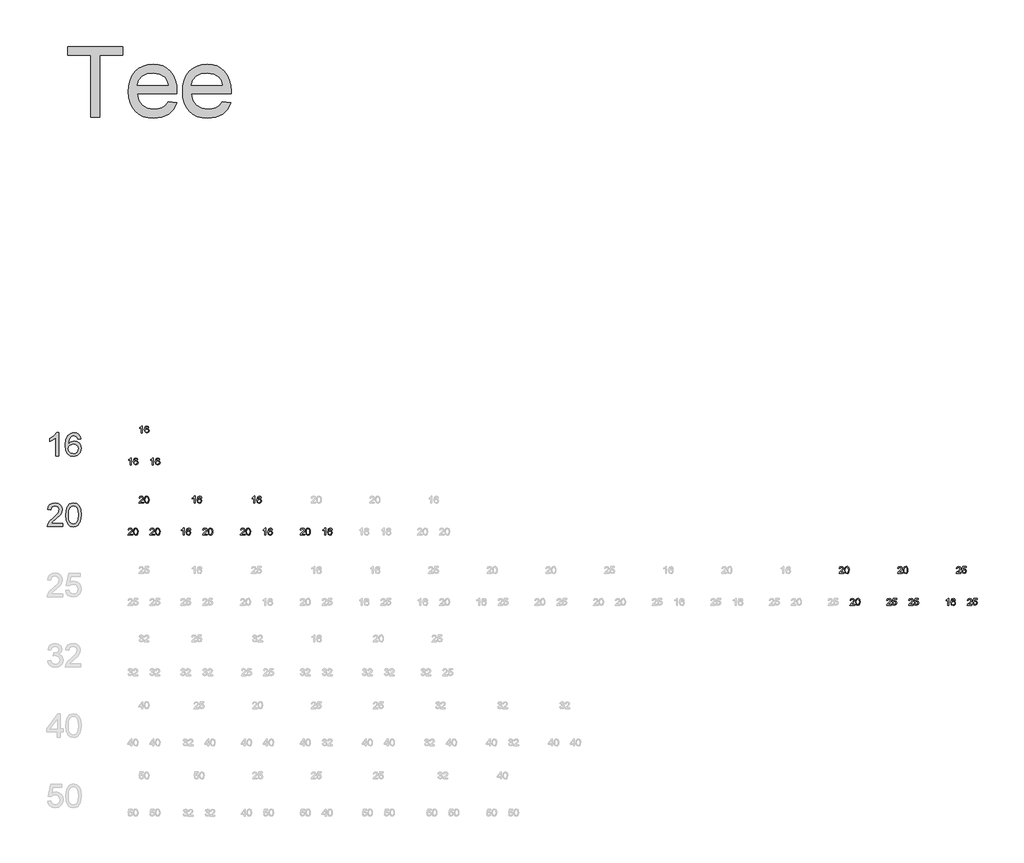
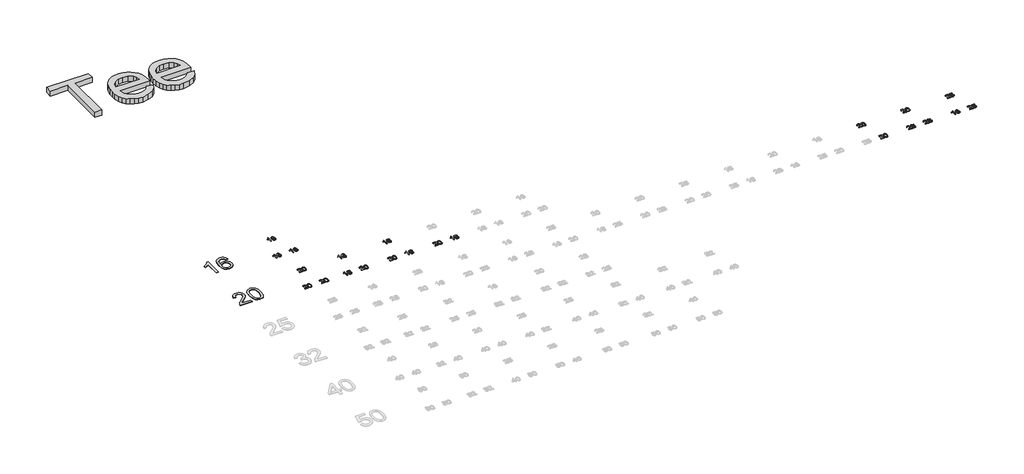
# One storey, part 20 of 26: 25 proxies.
"""IFC4 building model written with IfcOpenShell, lengths in millimetres."""

from ifc_helpers import new_model, si_unit, origin, origin_with_axes, place, context, project, spatial, polyline, outline, extrude, element, save

model = new_model("IFC4")

# Units and contexts
model_context = context("Model", 3, world=origin())
ifc_project = project(units=[si_unit("LENGTHUNIT", "METRE", prefix="MILLI")], contexts=[model_context])

# Site, building, storey
site = spatial("IfcSite", under=ifc_project)
building = spatial("IfcBuilding", under=site)
storey = spatial("IfcBuildingStorey", under=building, Name="Superpipe UFH", Elevation=0.0)

# Proxies
placement = place(None, origin())
element("IfcBuildingElementProxy", 1, Name="100mm Arial", ObjectType="100mm Arial", at=placement, inside=storey, context=model_context, shape_type="SweptSolid", body=[
    extrude(outline(polyline([(25218.072208, 24325.7324643), (25205.5151692, 24325.7324643), (25205.5151692, 24404.0177529), (25193.6203181, 24395.5442043), (25180.4010917, 24389.2043712), (25180.4010917, 24401.0746969), (25198.8074542, 24412.8223953), (25209.9788041, 24426.1887745), (25218.072208, 24426.1887745), (25218.072208, 24325.7324643)])), origin_with_axes(), (0.0, 0.0, 1.0), 2.0),
    extrude(outline(polyline([(25312.2499988, 24399.5050671), (25299.69296, 24397.9354372), (25294.9350195, 24408.4078114), (25282.3534553, 24413.6317357), (25271.0226898, 24410.5905779), (25262.4510394, 24399.1739733), (25258.882584, 24376.7944853), (25269.9558321, 24386.8131383), (25283.6778305, 24390.087288), (25295.2783761, 24387.8493392), (25305.0149862, 24381.1354928), (25311.618468, 24370.8777165), (25313.8196286, 24358.007978), (25309.6748248, 24340.6807361), (25298.270483, 24328.4180029), (25281.813895, 24324.1628345), (25267.5676648, 24326.9832631), (25256.2215709, 24335.444549), (25248.7995517, 24350.380558), (25246.3255452, 24372.625156), (25249.0723975, 24397.6350003), (25257.3129542, 24414.7353817), (25268.5640118, 24423.3254263), (25283.1382702, 24426.1887745), (25294.156336, 24424.4168095), (25302.9793725, 24419.1009147), (25309.15979, 24410.6580229), (25312.2499988, 24399.5050671)]), holes=[polyline([(25258.882584, 24358.2041818), (25261.7888518, 24347.3271374), (25269.5143737, 24339.4299373), (25280.8328764, 24336.7198733), (25289.1194183, 24338.1239562), (25295.6339953, 24342.336205), (25299.8554412, 24348.958081), (25301.2625899, 24357.5910451), (25299.8738353, 24365.8775871), (25295.7075717, 24372.1959603), (25289.0826301, 24376.196677), (25280.3178416, 24377.5302492), (25265.1243152, 24372.1959603), (25260.4430168, 24366.0308712), (25258.882584, 24358.2041818)])]), origin_with_axes(), (0.0, 0.0, 1.0), 2.0),
])
element("IfcBuildingElementProxy", 2, Name="100mm Arial", ObjectType="100mm Arial", at=placement, inside=storey, context=model_context, shape_type="SweptSolid", body=[
    extrude(outline(polyline([(25235.3381363, 24038.2895031), (25235.3381363, 24025.7324643), (25169.4136828, 24025.7324643), (25170.7625834, 24034.3899539), (25178.3900035, 24047.7195449), (25194.1108274, 24062.2754092), (25215.7913396, 24083.195632), (25221.2114677, 24097.4204025), (25216.097908, 24108.9351089), (25202.7437915, 24113.6317357), (25188.8255894, 24109.0454735), (25183.5403514, 24096.3658074), (25170.9833126, 24097.9354372), (25174.0275361, 24110.0816745), (25180.6095582, 24118.9537619), (25190.3860222, 24124.3800213), (25203.0135717, 24126.1887745), (25215.7330917, 24124.1776862), (25225.4911616, 24118.1444215), (25231.6991702, 24109.1313126), (25233.7685065, 24098.1806919), (25231.536689, 24086.273578), (25224.1177355, 24073.9617939), (25206.1283059, 24056.7571793), (25191.6828062, 24044.6783871), (25186.0174235, 24038.2895031), (25235.3381363, 24038.2895031)])), origin_with_axes(), (0.0, 0.0, 1.0), 2.0),
    extrude(outline(polyline([(25247.8951751, 24075.151279), (25251.5862578, 24104.0545411), (25262.5491412, 24120.7195955), (25280.8574019, 24126.1887745), (25295.5236307, 24122.9514129), (25305.6526483, 24113.619473), (25311.5387602, 24098.7570404), (25313.8196286, 24075.151279), (25310.1653341, 24046.3706443), (25299.2392389, 24029.6688017), (25291.0078792, 24025.5393263), (25280.8574019, 24024.1628345), (25267.8098538, 24026.5540675), (25257.9015654, 24033.7277664), (25250.3967727, 24050.7177832), (25247.8951751, 24075.151279)]), holes=[polyline([(25260.4522139, 24075.1758045), (25261.9237418, 24055.423607), (25266.3383258, 24043.991674), (25272.9111508, 24038.5378234), (25280.8574019, 24036.7198733), (25288.8036529, 24038.5439548), (25295.3764779, 24044.0161995), (25299.7910619, 24055.4542639), (25301.2625899, 24075.1758045), (25299.8401128, 24094.4834779), (25295.5726817, 24106.0043157), (25289.0121194, 24111.7248807), (25280.7102491, 24113.6317357), (25272.8498371, 24111.9517413), (25266.5345295, 24106.9117579), (25261.9727928, 24094.6735502), (25260.4522139, 24075.1758045)])]), origin_with_axes(), (0.0, 0.0, 1.0), 2.0),
])
element("IfcBuildingElementProxy", 3, Name="30mm Arial", ObjectType="30mm Arial", at=placement, inside=storey, context=model_context, shape_type="SweptSolid", body=[
    extrude(outline(polyline([(25528.0687968, 24288.5299634), (25524.3016852, 24288.5299634), (25524.3016852, 24312.01555), (25520.7332298, 24309.4734854), (25516.7674619, 24307.5715355), (25516.7674619, 24311.1326332), (25522.2893707, 24314.6569427), (25525.6407756, 24318.6668565), (25528.0687968, 24318.6668565), (25528.0687968, 24288.5299634)])), origin_with_axes(), (0.0, 0.0, 1.0), 2.0),
    extrude(outline(polyline([(25556.322134, 24310.6617442), (25552.5550224, 24310.1908553), (25551.1276403, 24313.3325675), (25547.353171, 24314.8997448), (25543.9539414, 24313.9873975), (25541.3824462, 24310.5624161), (25540.3119096, 24303.8485697), (25543.633884, 24306.8541656), (25547.7504835, 24307.8364105), (25554.1516303, 24305.150872), (25556.793023, 24298.2126175), (25555.5495818, 24293.0144449), (25552.1282793, 24289.335625), (25547.1913029, 24288.0590745), (25539.5136057, 24291.4435888), (25536.544798, 24302.5977709), (25539.8410206, 24315.2308386), (25547.5886155, 24318.6668565), (25553.5409461, 24316.5404985), (25556.322134, 24310.6617442)]), holes=[polyline([(25540.3119096, 24298.2714786), (25541.1837899, 24295.0083653), (25543.5014465, 24292.6392053), (25546.8969973, 24291.8261861), (25551.337333, 24293.5110856), (25553.0259114, 24298.0875376), (25551.3594059, 24302.4690122), (25546.7424869, 24304.0692989), (25542.184429, 24302.4690122), (25540.3119096, 24298.2714786)])]), origin_with_axes(), (0.0, 0.0, 1.0), 2.0),
])
element("IfcBuildingElementProxy", 4, Name="30mm Arial", ObjectType="30mm Arial", at=placement, inside=storey, context=model_context, shape_type="SweptSolid", body=[
    extrude(outline(polyline([(25621.8187968, 24288.5299634), (25618.0516852, 24288.5299634), (25618.0516852, 24312.01555), (25614.4832298, 24309.4734854), (25610.5174619, 24307.5715355), (25610.5174619, 24311.1326332), (25616.0393707, 24314.6569427), (25619.3907756, 24318.6668565), (25621.8187968, 24318.6668565), (25621.8187968, 24288.5299634)])), origin_with_axes(), (0.0, 0.0, 1.0), 2.0),
    extrude(outline(polyline([(25650.072134, 24310.6617442), (25646.3050224, 24310.1908553), (25644.8776403, 24313.3325675), (25641.103171, 24314.8997448), (25637.7039414, 24313.9873975), (25635.1324462, 24310.5624161), (25634.0619096, 24303.8485697), (25637.383884, 24306.8541656), (25641.5004835, 24307.8364105), (25647.9016303, 24305.150872), (25650.543023, 24298.2126175), (25649.2995818, 24293.0144449), (25645.8782793, 24289.335625), (25640.9413029, 24288.0590745), (25633.2636057, 24291.4435888), (25630.294798, 24302.5977709), (25633.5910206, 24315.2308386), (25641.3386155, 24318.6668565), (25647.2909461, 24316.5404985), (25650.072134, 24310.6617442)]), holes=[polyline([(25634.0619096, 24298.2714786), (25634.9337899, 24295.0083653), (25637.2514465, 24292.6392053), (25640.6469973, 24291.8261861), (25645.087333, 24293.5110856), (25646.7759114, 24298.0875376), (25645.1094059, 24302.4690122), (25640.4924869, 24304.0692989), (25635.934429, 24302.4690122), (25634.0619096, 24298.2714786)])]), origin_with_axes(), (0.0, 0.0, 1.0), 2.0),
])
element("IfcBuildingElementProxy", 5, Name="30mm Arial", ObjectType="30mm Arial", at=placement, inside=storey, context=model_context, shape_type="SweptSolid", body=[
    extrude(outline(polyline([(25574.9969816, 24424.848604), (25571.22987, 24424.848604), (25571.22987, 24448.3341905), (25567.6614146, 24445.792126), (25563.6956467, 24443.890176), (25563.6956467, 24447.4512738), (25569.2175555, 24450.9755833), (25572.5689604, 24454.985497), (25574.9969816, 24454.985497), (25574.9969816, 24424.848604)])), origin_with_axes(), (0.0, 0.0, 1.0), 2.0),
    extrude(outline(polyline([(25603.2503188, 24446.9803848), (25599.4832072, 24446.5094959), (25598.0558251, 24449.6512081), (25594.2813558, 24451.2183854), (25590.8821262, 24450.306038), (25588.310631, 24446.8810567), (25587.2400944, 24440.1672103), (25590.5620688, 24443.1728062), (25594.6786683, 24444.1550511), (25601.0798151, 24441.4695125), (25603.7212078, 24434.5312581), (25602.4777666, 24429.3330855), (25599.0564641, 24425.6542655), (25594.1194877, 24424.377715), (25586.4417905, 24427.7622294), (25583.4729828, 24438.9164115), (25586.7692055, 24451.5494792), (25594.5168003, 24454.985497), (25600.469131, 24452.8591391), (25603.2503188, 24446.9803848)]), holes=[polyline([(25587.2400944, 24434.5901192), (25588.1119747, 24431.3270059), (25590.4296313, 24428.9578459), (25593.8251821, 24428.1448267), (25598.2655178, 24429.8297262), (25599.9540962, 24434.4061782), (25598.2875907, 24438.7876528), (25593.6706717, 24440.3879395), (25589.1126138, 24438.7876528), (25587.2400944, 24434.5901192)])]), origin_with_axes(), (0.0, 0.0, 1.0), 2.0),
])
element("IfcBuildingElementProxy", 6, Name="30mm Arial", ObjectType="30mm Arial", at=placement, inside=storey, context=model_context, shape_type="SweptSolid", body=[
    extrude(outline(polyline([(25533.2485753, 23992.297075), (25533.2485753, 23988.5299634), (25513.4712392, 23988.5299634), (25513.8759094, 23991.1272103), (25516.1641354, 23995.1260876), (25520.8803826, 23999.4928469), (25527.3845363, 24005.7689137), (25529.0105747, 24010.0363449), (25527.4765068, 24013.4907568), (25523.4702719, 24014.8997448), (25519.2948112, 24013.5238662), (25517.7092398, 24009.7199663), (25513.9421282, 24010.1908553), (25516.8300018, 24016.4963527), (25523.5512059, 24018.6668565), (25530.2944829, 24016.2535506), (25532.7776863, 24010.2644317), (25532.1081411, 24006.6922975), (25529.882455, 24002.9987623), (25524.4856262, 23997.8373779), (25520.1519763, 23994.2137402), (25518.4523614, 23992.297075), (25533.2485753, 23992.297075)])), origin_with_axes(), (0.0, 0.0, 1.0), 2.0),
    extrude(outline(polyline([(25537.0156869, 24003.3556078), (25538.1230117, 24012.0265864), (25541.4118768, 24017.0261028), (25546.904355, 24018.6668565), (25551.3042236, 24017.695648), (25554.3429289, 24014.896066), (25556.1087625, 24010.4373362), (25556.793023, 24003.3556078), (25555.6967346, 23994.7214174), (25552.4189061, 23989.7108646), (25546.904355, 23988.0590745), (25540.017604, 23990.928554), (25537.0156869, 24003.3556078)]), holes=[polyline([(25540.7827986, 24003.3629655), (25542.5486321, 23994.0077263), (25546.904355, 23991.8261861), (25551.2600778, 23994.015084), (25553.0259114, 24003.3629655), (25551.3189389, 24012.6115188), (25546.8602091, 24014.8997448), (25542.6074932, 24012.8837515), (25540.7827986, 24003.3629655)])]), origin_with_axes(), (0.0, 0.0, 1.0), 2.0),
])
element("IfcBuildingElementProxy", 7, Name="30mm Arial", ObjectType="30mm Arial", at=placement, inside=storey, context=model_context, shape_type="SweptSolid", body=[
    extrude(outline(polyline([(25626.9985753, 23992.297075), (25626.9985753, 23988.5299634), (25607.2212392, 23988.5299634), (25607.6259094, 23991.1272103), (25609.9141354, 23995.1260876), (25614.6303826, 23999.4928469), (25621.1345363, 24005.7689137), (25622.7605747, 24010.0363449), (25621.2265068, 24013.4907568), (25617.2202719, 24014.8997448), (25613.0448112, 24013.5238662), (25611.4592398, 24009.7199663), (25607.6921282, 24010.1908553), (25610.5800018, 24016.4963527), (25617.3012059, 24018.6668565), (25624.0444829, 24016.2535506), (25626.5276863, 24010.2644317), (25625.8581411, 24006.6922975), (25623.632455, 24002.9987623), (25618.2356262, 23997.8373779), (25613.9019763, 23994.2137402), (25612.2023614, 23992.297075), (25626.9985753, 23992.297075)])), origin_with_axes(), (0.0, 0.0, 1.0), 2.0),
    extrude(outline(polyline([(25630.7656869, 24003.3556078), (25631.8730117, 24012.0265864), (25635.1618768, 24017.0261028), (25640.654355, 24018.6668565), (25645.0542236, 24017.695648), (25648.0929289, 24014.896066), (25649.8587625, 24010.4373362), (25650.543023, 24003.3556078), (25649.4467346, 23994.7214174), (25646.1689061, 23989.7108646), (25640.654355, 23988.0590745), (25633.767604, 23990.928554), (25630.7656869, 24003.3556078)]), holes=[polyline([(25634.5327986, 24003.3629655), (25636.2986321, 23994.0077263), (25640.654355, 23991.8261861), (25645.0100778, 23994.015084), (25646.7759114, 24003.3629655), (25645.0689389, 24012.6115188), (25640.6102091, 24014.8997448), (25636.3574932, 24012.8837515), (25634.5327986, 24003.3629655)])]), origin_with_axes(), (0.0, 0.0, 1.0), 2.0),
])
element("IfcBuildingElementProxy", 8, Name="30mm Arial", ObjectType="30mm Arial", at=placement, inside=storey, context=model_context, shape_type="SweptSolid", body=[
    extrude(outline(polyline([(25580.1767601, 24128.6157156), (25580.1767601, 24124.848604), (25560.399424, 24124.848604), (25560.8040942, 24127.4458509), (25563.0923202, 24131.4447281), (25567.8085674, 24135.8114874), (25574.3127211, 24142.0875543), (25575.9387595, 24146.3549854), (25574.4046916, 24149.8093973), (25570.3984567, 24151.2183854), (25566.222996, 24149.8425067), (25564.6374246, 24146.0386069), (25560.870313, 24146.5094959), (25563.7581867, 24152.8149932), (25570.4793907, 24154.985497), (25577.2226677, 24152.5721911), (25579.7058711, 24146.5830723), (25579.0363259, 24143.0109381), (25576.8106398, 24139.3174028), (25571.413811, 24134.1560185), (25567.0801611, 24130.5323808), (25565.3805463, 24128.6157156), (25580.1767601, 24128.6157156)])), origin_with_axes(), (0.0, 0.0, 1.0), 2.0),
    extrude(outline(polyline([(25583.9438717, 24139.6742484), (25585.0511965, 24148.345227), (25588.3400616, 24153.3447433), (25593.8325398, 24154.985497), (25598.2324084, 24154.0142886), (25601.2711137, 24151.2147066), (25603.0369473, 24146.7559768), (25603.7212078, 24139.6742484), (25602.6249194, 24131.040058), (25599.3470909, 24126.0295052), (25593.8325398, 24124.377715), (25586.9457888, 24127.2471946), (25583.9438717, 24139.6742484)]), holes=[polyline([(25587.7109834, 24139.681606), (25589.4768169, 24130.3263669), (25593.8325398, 24128.1448267), (25598.1882626, 24130.3337245), (25599.9540962, 24139.681606), (25598.2471237, 24148.9301594), (25593.7883939, 24151.2183854), (25589.5356781, 24149.2023921), (25587.7109834, 24139.681606)])]), origin_with_axes(), (0.0, 0.0, 1.0), 2.0),
])
element("IfcBuildingElementProxy", 9, Name="30mm Arial", ObjectType="30mm Arial", at=placement, inside=storey, context=model_context, shape_type="SweptSolid", body=[
    extrude(outline(polyline([(25753.0687968, 23988.5299634), (25749.3016852, 23988.5299634), (25749.3016852, 24012.01555), (25745.7332298, 24009.4734854), (25741.7674619, 24007.5715355), (25741.7674619, 24011.1326332), (25747.2893707, 24014.6569427), (25750.6407756, 24018.6668565), (25753.0687968, 24018.6668565), (25753.0687968, 23988.5299634)])), origin_with_axes(), (0.0, 0.0, 1.0), 2.0),
    extrude(outline(polyline([(25781.322134, 24010.6617442), (25777.5550224, 24010.1908553), (25776.1276403, 24013.3325675), (25772.353171, 24014.8997448), (25768.9539414, 24013.9873975), (25766.3824462, 24010.5624161), (25765.3119096, 24003.8485697), (25768.633884, 24006.8541656), (25772.7504835, 24007.8364105), (25779.1516303, 24005.150872), (25781.793023, 23998.2126175), (25780.5495818, 23993.0144449), (25777.1282793, 23989.335625), (25772.1913029, 23988.0590745), (25764.5136057, 23991.4435888), (25761.544798, 24002.5977709), (25764.8410206, 24015.2308386), (25772.5886155, 24018.6668565), (25778.5409461, 24016.5404985), (25781.322134, 24010.6617442)]), holes=[polyline([(25765.3119096, 23998.2714786), (25766.1837899, 23995.0083653), (25768.5014465, 23992.6392053), (25771.8969973, 23991.8261861), (25776.337333, 23993.5110856), (25778.0259114, 23998.0875376), (25776.3594059, 24002.4690122), (25771.7424869, 24004.0692989), (25767.184429, 24002.4690122), (25765.3119096, 23998.2714786)])]), origin_with_axes(), (0.0, 0.0, 1.0), 2.0),
])
element("IfcBuildingElementProxy", 10, Name="30mm Arial", ObjectType="30mm Arial", at=placement, inside=storey, context=model_context, shape_type="SweptSolid", body=[
    extrude(outline(polyline([(25851.9985753, 23992.297075), (25851.9985753, 23988.5299634), (25832.2212392, 23988.5299634), (25832.6259094, 23991.1272103), (25834.9141354, 23995.1260876), (25839.6303826, 23999.4928469), (25846.1345363, 24005.7689137), (25847.7605747, 24010.0363449), (25846.2265068, 24013.4907568), (25842.2202719, 24014.8997448), (25838.0448112, 24013.5238662), (25836.4592398, 24009.7199663), (25832.6921282, 24010.1908553), (25835.5800018, 24016.4963527), (25842.3012059, 24018.6668565), (25849.0444829, 24016.2535506), (25851.5276863, 24010.2644317), (25850.8581411, 24006.6922975), (25848.632455, 24002.9987623), (25843.2356262, 23997.8373779), (25838.9019763, 23994.2137402), (25837.2023614, 23992.297075), (25851.9985753, 23992.297075)])), origin_with_axes(), (0.0, 0.0, 1.0), 2.0),
    extrude(outline(polyline([(25855.7656869, 24003.3556078), (25856.8730117, 24012.0265864), (25860.1618768, 24017.0261028), (25865.654355, 24018.6668565), (25870.0542236, 24017.695648), (25873.0929289, 24014.896066), (25874.8587625, 24010.4373362), (25875.543023, 24003.3556078), (25874.4467346, 23994.7214174), (25871.1689061, 23989.7108646), (25865.654355, 23988.0590745), (25858.767604, 23990.928554), (25855.7656869, 24003.3556078)]), holes=[polyline([(25859.5327986, 24003.3629655), (25861.2986321, 23994.0077263), (25865.654355, 23991.8261861), (25870.0100778, 23994.015084), (25871.7759114, 24003.3629655), (25870.0689389, 24012.6115188), (25865.6102091, 24014.8997448), (25861.3574932, 24012.8837515), (25859.5327986, 24003.3629655)])]), origin_with_axes(), (0.0, 0.0, 1.0), 2.0),
])
element("IfcBuildingElementProxy", 11, Name="30mm Arial", ObjectType="30mm Arial", at=placement, inside=storey, context=model_context, shape_type="SweptSolid", body=[
    extrude(outline(polyline([(25799.9969816, 24124.848604), (25796.22987, 24124.848604), (25796.22987, 24148.3341905), (25792.6614146, 24145.792126), (25788.6956467, 24143.890176), (25788.6956467, 24147.4512738), (25794.2175555, 24150.9755833), (25797.5689604, 24154.985497), (25799.9969816, 24154.985497), (25799.9969816, 24124.848604)])), origin_with_axes(), (0.0, 0.0, 1.0), 2.0),
    extrude(outline(polyline([(25828.2503188, 24146.9803848), (25824.4832072, 24146.5094959), (25823.0558251, 24149.6512081), (25819.2813558, 24151.2183854), (25815.8821262, 24150.306038), (25813.310631, 24146.8810567), (25812.2400944, 24140.1672103), (25815.5620688, 24143.1728062), (25819.6786683, 24144.1550511), (25826.0798151, 24141.4695125), (25828.7212078, 24134.5312581), (25827.4777666, 24129.3330855), (25824.0564641, 24125.6542655), (25819.1194877, 24124.377715), (25811.4417905, 24127.7622294), (25808.4729828, 24138.9164115), (25811.7692055, 24151.5494792), (25819.5168003, 24154.985497), (25825.469131, 24152.8591391), (25828.2503188, 24146.9803848)]), holes=[polyline([(25812.2400944, 24134.5901192), (25813.1119747, 24131.3270059), (25815.4296313, 24128.9578459), (25818.8251821, 24128.1448267), (25823.2655178, 24129.8297262), (25824.9540962, 24134.4061782), (25823.2875907, 24138.7876528), (25818.6706717, 24140.3879395), (25814.1126138, 24138.7876528), (25812.2400944, 24134.5901192)])]), origin_with_axes(), (0.0, 0.0, 1.0), 2.0),
])
element("IfcBuildingElementProxy", 12, Name="30mm Arial", ObjectType="30mm Arial", at=placement, inside=storey, context=model_context, shape_type="SweptSolid", body=[
    extrude(outline(polyline([(26013.2485753, 23992.297075), (26013.2485753, 23988.5299634), (25993.4712392, 23988.5299634), (25993.8759094, 23991.1272103), (25996.1641354, 23995.1260876), (26000.8803826, 23999.4928469), (26007.3845363, 24005.7689137), (26009.0105747, 24010.0363449), (26007.4765068, 24013.4907568), (26003.4702719, 24014.8997448), (25999.2948112, 24013.5238662), (25997.7092398, 24009.7199663), (25993.9421282, 24010.1908553), (25996.8300018, 24016.4963527), (26003.5512059, 24018.6668565), (26010.2944829, 24016.2535506), (26012.7776863, 24010.2644317), (26012.1081411, 24006.6922975), (26009.882455, 24002.9987623), (26004.4856262, 23997.8373779), (26000.1519763, 23994.2137402), (25998.4523614, 23992.297075), (26013.2485753, 23992.297075)])), origin_with_axes(), (0.0, 0.0, 1.0), 2.0),
    extrude(outline(polyline([(26017.0156869, 24003.3556078), (26018.1230117, 24012.0265864), (26021.4118768, 24017.0261028), (26026.904355, 24018.6668565), (26031.3042236, 24017.695648), (26034.3429289, 24014.896066), (26036.1087625, 24010.4373362), (26036.793023, 24003.3556078), (26035.6967346, 23994.7214174), (26032.4189061, 23989.7108646), (26026.904355, 23988.0590745), (26020.017604, 23990.928554), (26017.0156869, 24003.3556078)]), holes=[polyline([(26020.7827986, 24003.3629655), (26022.5486321, 23994.0077263), (26026.904355, 23991.8261861), (26031.2600778, 23994.015084), (26033.0259114, 24003.3629655), (26031.3189389, 24012.6115188), (26026.8602091, 24014.8997448), (26022.6074932, 24012.8837515), (26020.7827986, 24003.3629655)])]), origin_with_axes(), (0.0, 0.0, 1.0), 2.0),
])
element("IfcBuildingElementProxy", 13, Name="30mm Arial", ObjectType="30mm Arial", at=placement, inside=storey, context=model_context, shape_type="SweptSolid", body=[
    extrude(outline(polyline([(26101.8187968, 23988.5299634), (26098.0516852, 23988.5299634), (26098.0516852, 24012.01555), (26094.4832298, 24009.4734854), (26090.5174619, 24007.5715355), (26090.5174619, 24011.1326332), (26096.0393707, 24014.6569427), (26099.3907756, 24018.6668565), (26101.8187968, 24018.6668565), (26101.8187968, 23988.5299634)])), origin_with_axes(), (0.0, 0.0, 1.0), 2.0),
    extrude(outline(polyline([(26130.072134, 24010.6617442), (26126.3050224, 24010.1908553), (26124.8776403, 24013.3325675), (26121.103171, 24014.8997448), (26117.7039414, 24013.9873975), (26115.1324462, 24010.5624161), (26114.0619096, 24003.8485697), (26117.383884, 24006.8541656), (26121.5004835, 24007.8364105), (26127.9016303, 24005.150872), (26130.543023, 23998.2126175), (26129.2995818, 23993.0144449), (26125.8782793, 23989.335625), (26120.9413029, 23988.0590745), (26113.2636057, 23991.4435888), (26110.294798, 24002.5977709), (26113.5910206, 24015.2308386), (26121.3386155, 24018.6668565), (26127.2909461, 24016.5404985), (26130.072134, 24010.6617442)]), holes=[polyline([(26114.0619096, 23998.2714786), (26114.9337899, 23995.0083653), (26117.2514465, 23992.6392053), (26120.6469973, 23991.8261861), (26125.087333, 23993.5110856), (26126.7759114, 23998.0875376), (26125.1094059, 24002.4690122), (26120.4924869, 24004.0692989), (26115.934429, 24002.4690122), (26114.0619096, 23998.2714786)])]), origin_with_axes(), (0.0, 0.0, 1.0), 2.0),
])
element("IfcBuildingElementProxy", 14, Name="30mm Arial", ObjectType="30mm Arial", at=placement, inside=storey, context=model_context, shape_type="SweptSolid", body=[
    extrude(outline(polyline([(26054.9969816, 24124.848604), (26051.22987, 24124.848604), (26051.22987, 24148.3341905), (26047.6614146, 24145.792126), (26043.6956467, 24143.890176), (26043.6956467, 24147.4512738), (26049.2175555, 24150.9755833), (26052.5689604, 24154.985497), (26054.9969816, 24154.985497), (26054.9969816, 24124.848604)])), origin_with_axes(), (0.0, 0.0, 1.0), 2.0),
    extrude(outline(polyline([(26083.2503188, 24146.9803848), (26079.4832072, 24146.5094959), (26078.0558251, 24149.6512081), (26074.2813558, 24151.2183854), (26070.8821262, 24150.306038), (26068.310631, 24146.8810567), (26067.2400944, 24140.1672103), (26070.5620688, 24143.1728062), (26074.6786683, 24144.1550511), (26081.0798151, 24141.4695125), (26083.7212078, 24134.5312581), (26082.4777666, 24129.3330855), (26079.0564641, 24125.6542655), (26074.1194877, 24124.377715), (26066.4417905, 24127.7622294), (26063.4729828, 24138.9164115), (26066.7692055, 24151.5494792), (26074.5168003, 24154.985497), (26080.469131, 24152.8591391), (26083.2503188, 24146.9803848)]), holes=[polyline([(26067.2400944, 24134.5901192), (26068.1119747, 24131.3270059), (26070.4296313, 24128.9578459), (26073.8251821, 24128.1448267), (26078.2655178, 24129.8297262), (26079.9540962, 24134.4061782), (26078.2875907, 24138.7876528), (26073.6706717, 24140.3879395), (26069.1126138, 24138.7876528), (26067.2400944, 24134.5901192)])]), origin_with_axes(), (0.0, 0.0, 1.0), 2.0),
])
element("IfcBuildingElementProxy", 15, Name="30mm Arial", ObjectType="30mm Arial", at=placement, inside=storey, context=model_context, shape_type="SweptSolid", body=[
    extrude(outline(polyline([(26268.2485753, 23992.297075), (26268.2485753, 23988.5299634), (26248.4712392, 23988.5299634), (26248.8759094, 23991.1272103), (26251.1641354, 23995.1260876), (26255.8803826, 23999.4928469), (26262.3845363, 24005.7689137), (26264.0105747, 24010.0363449), (26262.4765068, 24013.4907568), (26258.4702719, 24014.8997448), (26254.2948112, 24013.5238662), (26252.7092398, 24009.7199663), (26248.9421282, 24010.1908553), (26251.8300018, 24016.4963527), (26258.5512059, 24018.6668565), (26265.2944829, 24016.2535506), (26267.7776863, 24010.2644317), (26267.1081411, 24006.6922975), (26264.882455, 24002.9987623), (26259.4856262, 23997.8373779), (26255.1519763, 23994.2137402), (26253.4523614, 23992.297075), (26268.2485753, 23992.297075)])), origin_with_axes(), (0.0, 0.0, 1.0), 2.0),
    extrude(outline(polyline([(26272.0156869, 24003.3556078), (26273.1230117, 24012.0265864), (26276.4118768, 24017.0261028), (26281.904355, 24018.6668565), (26286.3042236, 24017.695648), (26289.3429289, 24014.896066), (26291.1087625, 24010.4373362), (26291.793023, 24003.3556078), (26290.6967346, 23994.7214174), (26287.4189061, 23989.7108646), (26281.904355, 23988.0590745), (26275.017604, 23990.928554), (26272.0156869, 24003.3556078)]), holes=[polyline([(26275.7827986, 24003.3629655), (26277.5486321, 23994.0077263), (26281.904355, 23991.8261861), (26286.2600778, 23994.015084), (26288.0259114, 24003.3629655), (26286.3189389, 24012.6115188), (26281.8602091, 24014.8997448), (26277.6074932, 24012.8837515), (26275.7827986, 24003.3629655)])]), origin_with_axes(), (0.0, 0.0, 1.0), 2.0),
])
element("IfcBuildingElementProxy", 16, Name="30mm Arial", ObjectType="30mm Arial", at=placement, inside=storey, context=model_context, shape_type="SweptSolid", body=[
    extrude(outline(polyline([(26356.8187968, 23988.5299634), (26353.0516852, 23988.5299634), (26353.0516852, 24012.01555), (26349.4832298, 24009.4734854), (26345.5174619, 24007.5715355), (26345.5174619, 24011.1326332), (26351.0393707, 24014.6569427), (26354.3907756, 24018.6668565), (26356.8187968, 24018.6668565), (26356.8187968, 23988.5299634)])), origin_with_axes(), (0.0, 0.0, 1.0), 2.0),
    extrude(outline(polyline([(26385.072134, 24010.6617442), (26381.3050224, 24010.1908553), (26379.8776403, 24013.3325675), (26376.103171, 24014.8997448), (26372.7039414, 24013.9873975), (26370.1324462, 24010.5624161), (26369.0619096, 24003.8485697), (26372.383884, 24006.8541656), (26376.5004835, 24007.8364105), (26382.9016303, 24005.150872), (26385.543023, 23998.2126175), (26384.2995818, 23993.0144449), (26380.8782793, 23989.335625), (26375.9413029, 23988.0590745), (26368.2636057, 23991.4435888), (26365.294798, 24002.5977709), (26368.5910206, 24015.2308386), (26376.3386155, 24018.6668565), (26382.2909461, 24016.5404985), (26385.072134, 24010.6617442)]), holes=[polyline([(26369.0619096, 23998.2714786), (26369.9337899, 23995.0083653), (26372.2514465, 23992.6392053), (26375.6469973, 23991.8261861), (26380.087333, 23993.5110856), (26381.7759114, 23998.0875376), (26380.1094059, 24002.4690122), (26375.4924869, 24004.0692989), (26370.934429, 24002.4690122), (26369.0619096, 23998.2714786)])]), origin_with_axes(), (0.0, 0.0, 1.0), 2.0),
])
element("IfcBuildingElementProxy", 17, Name="30mm Arial", ObjectType="30mm Arial", at=placement, inside=storey, context=model_context, shape_type="SweptSolid", body=[
    extrude(outline(polyline([(28614.5194691, 23692.297075), (28614.5194691, 23688.5299634), (28594.742133, 23688.5299634), (28595.1468032, 23691.1272103), (28597.4350292, 23695.1260876), (28602.1512764, 23699.4928469), (28608.6554301, 23705.7689137), (28610.2814685, 23710.0363449), (28608.7474006, 23713.4907568), (28604.7411657, 23714.8997448), (28600.565705, 23713.5238662), (28598.9801336, 23709.7199663), (28595.213022, 23710.1908553), (28598.1008956, 23716.4963527), (28604.8220997, 23718.6668565), (28611.5653767, 23716.2535506), (28614.0485801, 23710.2644317), (28613.3790349, 23706.6922975), (28611.1533488, 23702.9987623), (28605.75652, 23697.8373779), (28601.4228701, 23694.2137402), (28599.7232552, 23692.297075), (28614.5194691, 23692.297075)])), origin_with_axes(), (0.0, 0.0, 1.0), 2.0),
    extrude(outline(polyline([(28618.2865807, 23703.3556078), (28619.3939055, 23712.0265864), (28622.6827706, 23717.0261028), (28628.1752487, 23718.6668565), (28632.5751174, 23717.695648), (28635.6138227, 23714.896066), (28637.3796563, 23710.4373362), (28638.0639168, 23703.3556078), (28636.9676284, 23694.7214174), (28633.6897999, 23689.7108646), (28628.1752487, 23688.0590745), (28621.2884978, 23690.928554), (28618.2865807, 23703.3556078)]), holes=[polyline([(28622.0536923, 23703.3629655), (28623.8195259, 23694.0077263), (28628.1752487, 23691.8261861), (28632.5309716, 23694.015084), (28634.2968051, 23703.3629655), (28632.5898327, 23712.6115188), (28628.1311029, 23714.8997448), (28623.878387, 23712.8837515), (28622.0536923, 23703.3629655)])]), origin_with_axes(), (0.0, 0.0, 1.0), 2.0),
])
element("IfcBuildingElementProxy", 18, Name="30mm Arial", ObjectType="30mm Arial", at=placement, inside=storey, context=model_context, shape_type="SweptSolid", body=[
    extrude(outline(polyline([(28567.6976539, 23828.6157156), (28567.6976539, 23824.848604), (28547.9203178, 23824.848604), (28548.324988, 23827.4458509), (28550.613214, 23831.4447281), (28555.3294612, 23835.8114874), (28561.8336149, 23842.0875543), (28563.4596533, 23846.3549854), (28561.9255854, 23849.8093973), (28557.9193505, 23851.2183854), (28553.7438898, 23849.8425067), (28552.1583184, 23846.0386069), (28548.3912068, 23846.5094959), (28551.2790804, 23852.8149932), (28558.0002845, 23854.985497), (28564.7435615, 23852.5721911), (28567.2267649, 23846.5830723), (28566.5572197, 23843.0109381), (28564.3315336, 23839.3174028), (28558.9347048, 23834.1560185), (28554.6010549, 23830.5323808), (28552.90144, 23828.6157156), (28567.6976539, 23828.6157156)])), origin_with_axes(), (0.0, 0.0, 1.0), 2.0),
    extrude(outline(polyline([(28571.4647655, 23839.6742484), (28572.5720903, 23848.345227), (28575.8609554, 23853.3447433), (28581.3534336, 23854.985497), (28585.7533022, 23854.0142886), (28588.7920075, 23851.2147066), (28590.5578411, 23846.7559768), (28591.2421016, 23839.6742484), (28590.1458132, 23831.040058), (28586.8679847, 23826.0295052), (28581.3534336, 23824.377715), (28574.4666826, 23827.2471946), (28571.4647655, 23839.6742484)]), holes=[polyline([(28575.2318772, 23839.681606), (28576.9977107, 23830.3263669), (28581.3534336, 23828.1448267), (28585.7091564, 23830.3337245), (28587.47499, 23839.681606), (28585.7680175, 23848.9301594), (28581.3092877, 23851.2183854), (28577.0565719, 23849.2023921), (28575.2318772, 23839.681606)])]), origin_with_axes(), (0.0, 0.0, 1.0), 2.0),
])
element("IfcBuildingElementProxy", 19, Name="30mm Arial", ObjectType="30mm Arial", at=placement, inside=storey, context=model_context, shape_type="SweptSolid", body=[
    extrude(outline(polyline([(28771.0495684, 23692.297075), (28771.0495684, 23688.5299634), (28751.2722323, 23688.5299634), (28751.6769025, 23691.1272103), (28753.9651285, 23695.1260876), (28758.6813757, 23699.4928469), (28765.1855294, 23705.7689137), (28766.8115678, 23710.0363449), (28765.2774999, 23713.4907568), (28761.271265, 23714.8997448), (28757.0958043, 23713.5238662), (28755.5102329, 23709.7199663), (28751.7431213, 23710.1908553), (28754.630995, 23716.4963527), (28761.352199, 23718.6668565), (28768.095476, 23716.2535506), (28770.5786794, 23710.2644317), (28769.9091342, 23706.6922975), (28767.6834481, 23702.9987623), (28762.2866193, 23697.8373779), (28757.9529694, 23694.2137402), (28756.2533546, 23692.297075), (28771.0495684, 23692.297075)])), origin_with_axes(), (0.0, 0.0, 1.0), 2.0),
    extrude(outline(polyline([(28774.81668, 23696.5350756), (28778.5837917, 23697.0059646), (28780.4820628, 23693.1248095), (28784.4184001, 23691.8261861), (28789.1420049, 23693.6324867), (28790.8269045, 23698.4259891), (28789.2486907, 23702.8994341), (28784.4772612, 23704.5401878), (28781.1700021, 23703.8853579), (28779.0546806, 23702.1857431), (28775.287569, 23702.656632), (28778.5837917, 23718.1959675), (28793.1813492, 23718.1959675), (28793.1813492, 23714.4288559), (28781.6298546, 23714.4288559), (28780.0185314, 23706.1294381), (28785.5294037, 23708.3072995), (28791.9710175, 23705.6070456), (28794.5940161, 23698.6614336), (28792.2322137, 23691.6716757), (28784.4036848, 23688.0590745), (28777.7560572, 23690.3804098), (28774.81668, 23696.5350756)])), origin_with_axes(), (0.0, 0.0, 1.0), 2.0),
])
element("IfcBuildingElementProxy", 20, Name="30mm Arial", ObjectType="30mm Arial", at=placement, inside=storey, context=model_context, shape_type="SweptSolid", body=[
    extrude(outline(polyline([(28864.7995684, 23692.297075), (28864.7995684, 23688.5299634), (28845.0222323, 23688.5299634), (28845.4269025, 23691.1272103), (28847.7151285, 23695.1260876), (28852.4313757, 23699.4928469), (28858.9355294, 23705.7689137), (28860.5615678, 23710.0363449), (28859.0274999, 23713.4907568), (28855.021265, 23714.8997448), (28850.8458043, 23713.5238662), (28849.2602329, 23709.7199663), (28845.4931213, 23710.1908553), (28848.380995, 23716.4963527), (28855.102199, 23718.6668565), (28861.845476, 23716.2535506), (28864.3286794, 23710.2644317), (28863.6591342, 23706.6922975), (28861.4334481, 23702.9987623), (28856.0366193, 23697.8373779), (28851.7029694, 23694.2137402), (28850.0033546, 23692.297075), (28864.7995684, 23692.297075)])), origin_with_axes(), (0.0, 0.0, 1.0), 2.0),
    extrude(outline(polyline([(28868.56668, 23696.5350756), (28872.3337917, 23697.0059646), (28874.2320628, 23693.1248095), (28878.1684001, 23691.8261861), (28882.8920049, 23693.6324867), (28884.5769045, 23698.4259891), (28882.9986907, 23702.8994341), (28878.2272612, 23704.5401878), (28874.9200021, 23703.8853579), (28872.8046806, 23702.1857431), (28869.037569, 23702.656632), (28872.3337917, 23718.1959675), (28886.9313492, 23718.1959675), (28886.9313492, 23714.4288559), (28875.3798546, 23714.4288559), (28873.7685314, 23706.1294381), (28879.2794037, 23708.3072995), (28885.7210175, 23705.6070456), (28888.3440161, 23698.6614336), (28885.9822137, 23691.6716757), (28878.1536848, 23688.0590745), (28871.5060572, 23690.3804098), (28868.56668, 23696.5350756)])), origin_with_axes(), (0.0, 0.0, 1.0), 2.0),
])
element("IfcBuildingElementProxy", 21, Name="30mm Arial", ObjectType="30mm Arial", at=placement, inside=storey, context=model_context, shape_type="SweptSolid", body=[
    extrude(outline(polyline([(28817.9777532, 23828.6157156), (28817.9777532, 23824.848604), (28798.2004171, 23824.848604), (28798.6050873, 23827.4458509), (28800.8933133, 23831.4447281), (28805.6095605, 23835.8114874), (28812.1137142, 23842.0875543), (28813.7397526, 23846.3549854), (28812.2056847, 23849.8093973), (28808.1994498, 23851.2183854), (28804.0239891, 23849.8425067), (28802.4384177, 23846.0386069), (28798.6713061, 23846.5094959), (28801.5591798, 23852.8149932), (28808.2803838, 23854.985497), (28815.0236608, 23852.5721911), (28817.5068643, 23846.5830723), (28816.837319, 23843.0109381), (28814.6116329, 23839.3174028), (28809.2148041, 23834.1560185), (28804.8811542, 23830.5323808), (28803.1815394, 23828.6157156), (28817.9777532, 23828.6157156)])), origin_with_axes(), (0.0, 0.0, 1.0), 2.0),
    extrude(outline(polyline([(28821.7448648, 23839.6742484), (28822.8521896, 23848.345227), (28826.1410547, 23853.3447433), (28831.6335329, 23854.985497), (28836.0334015, 23854.0142886), (28839.0721068, 23851.2147066), (28840.8379404, 23846.7559768), (28841.5222009, 23839.6742484), (28840.4259125, 23831.040058), (28837.148084, 23826.0295052), (28831.6335329, 23824.377715), (28824.7467819, 23827.2471946), (28821.7448648, 23839.6742484)]), holes=[polyline([(28825.5119765, 23839.681606), (28827.27781, 23830.3263669), (28831.6335329, 23828.1448267), (28835.9892557, 23830.3337245), (28837.7550893, 23839.681606), (28836.0481168, 23848.9301594), (28831.589387, 23851.2183854), (28827.3366712, 23849.2023921), (28825.5119765, 23839.681606)])]), origin_with_axes(), (0.0, 0.0, 1.0), 2.0),
])
element("IfcBuildingElementProxy", 22, Name="30mm Arial", ObjectType="30mm Arial", at=placement, inside=storey, context=model_context, shape_type="SweptSolid", body=[
    extrude(outline(polyline([(29016.1498892, 23688.5299634), (29012.3827776, 23688.5299634), (29012.3827776, 23712.01555), (29008.8143222, 23709.4734854), (29004.8485543, 23707.5715355), (29004.8485543, 23711.1326332), (29010.3704631, 23714.6569427), (29013.721868, 23718.6668565), (29016.1498892, 23718.6668565), (29016.1498892, 23688.5299634)])), origin_with_axes(), (0.0, 0.0, 1.0), 2.0),
    extrude(outline(polyline([(29044.4032264, 23710.6617442), (29040.6361148, 23710.1908553), (29039.2087327, 23713.3325675), (29035.4342634, 23714.8997448), (29032.0350338, 23713.9873975), (29029.4635386, 23710.5624161), (29028.393002, 23703.8485697), (29031.7149764, 23706.8541656), (29035.831576, 23707.8364105), (29042.2327227, 23705.150872), (29044.8741154, 23698.2126175), (29043.6306743, 23693.0144449), (29040.2093717, 23689.335625), (29035.2723953, 23688.0590745), (29027.5946981, 23691.4435888), (29024.6258904, 23702.5977709), (29027.9221131, 23715.2308386), (29035.6697079, 23718.6668565), (29041.6220386, 23716.5404985), (29044.4032264, 23710.6617442)]), holes=[polyline([(29028.393002, 23698.2714786), (29029.2648823, 23695.0083653), (29031.5825389, 23692.6392053), (29034.9780897, 23691.8261861), (29039.4184254, 23693.5110856), (29041.1070038, 23698.0875376), (29039.4404983, 23702.4690122), (29034.8235793, 23704.0692989), (29030.2655214, 23702.4690122), (29028.393002, 23698.2714786)])]), origin_with_axes(), (0.0, 0.0, 1.0), 2.0),
])
element("IfcBuildingElementProxy", 23, Name="30mm Arial", ObjectType="30mm Arial", at=placement, inside=storey, context=model_context, shape_type="SweptSolid", body=[
    extrude(outline(polyline([(29115.0796677, 23692.297075), (29115.0796677, 23688.5299634), (29095.3023316, 23688.5299634), (29095.7070018, 23691.1272103), (29097.9952279, 23695.1260876), (29102.711475, 23699.4928469), (29109.2156287, 23705.7689137), (29110.8416671, 23710.0363449), (29109.3075992, 23713.4907568), (29105.3013643, 23714.8997448), (29101.1259036, 23713.5238662), (29099.5403322, 23709.7199663), (29095.7732206, 23710.1908553), (29098.6610943, 23716.4963527), (29105.3822983, 23718.6668565), (29112.1255753, 23716.2535506), (29114.6087788, 23710.2644317), (29113.9392335, 23706.6922975), (29111.7135475, 23702.9987623), (29106.3167186, 23697.8373779), (29101.9830687, 23694.2137402), (29100.2834539, 23692.297075), (29115.0796677, 23692.297075)])), origin_with_axes(), (0.0, 0.0, 1.0), 2.0),
    extrude(outline(polyline([(29118.8467793, 23696.5350756), (29122.613891, 23697.0059646), (29124.5121621, 23693.1248095), (29128.4484994, 23691.8261861), (29133.1721042, 23693.6324867), (29134.8570038, 23698.4259891), (29133.27879, 23702.8994341), (29128.5073605, 23704.5401878), (29125.2001014, 23703.8853579), (29123.0847799, 23702.1857431), (29119.3176683, 23702.656632), (29122.613891, 23718.1959675), (29137.2114485, 23718.1959675), (29137.2114485, 23714.4288559), (29125.6599539, 23714.4288559), (29124.0486308, 23706.1294381), (29129.559503, 23708.3072995), (29136.0011168, 23705.6070456), (29138.6241154, 23698.6614336), (29136.262313, 23691.6716757), (29128.4337841, 23688.0590745), (29121.7861565, 23690.3804098), (29118.8467793, 23696.5350756)])), origin_with_axes(), (0.0, 0.0, 1.0), 2.0),
])
element("IfcBuildingElementProxy", 24, Name="30mm Arial", ObjectType="30mm Arial", at=placement, inside=storey, context=model_context, shape_type="SweptSolid", body=[
    extrude(outline(polyline([(29068.2578525, 23828.6157156), (29068.2578525, 23824.848604), (29048.4805165, 23824.848604), (29048.8851866, 23827.4458509), (29051.1734127, 23831.4447281), (29055.8896598, 23835.8114874), (29062.3938135, 23842.0875543), (29064.0198519, 23846.3549854), (29062.485784, 23849.8093973), (29058.4795491, 23851.2183854), (29054.3040884, 23849.8425067), (29052.718517, 23846.0386069), (29048.9514054, 23846.5094959), (29051.8392791, 23852.8149932), (29058.5604831, 23854.985497), (29065.3037601, 23852.5721911), (29067.7869636, 23846.5830723), (29067.1174183, 23843.0109381), (29064.8917323, 23839.3174028), (29059.4949034, 23834.1560185), (29055.1612535, 23830.5323808), (29053.4616387, 23828.6157156), (29068.2578525, 23828.6157156)])), origin_with_axes(), (0.0, 0.0, 1.0), 2.0),
    extrude(outline(polyline([(29072.0249641, 23832.8537162), (29075.7920758, 23833.3246051), (29077.6903469, 23829.4434501), (29081.6266842, 23828.1448267), (29086.350289, 23829.9511272), (29088.0351886, 23834.7446296), (29086.4569748, 23839.2180747), (29081.6855453, 23840.8588284), (29078.3782862, 23840.2039985), (29076.2629647, 23838.5043836), (29072.4958531, 23838.9752726), (29075.7920758, 23854.5146081), (29090.3896333, 23854.5146081), (29090.3896333, 23850.7474964), (29078.8381387, 23850.7474964), (29077.2268156, 23842.4480786), (29082.7376878, 23844.62594), (29089.1793016, 23841.9256862), (29091.8023002, 23834.9800741), (29089.4404978, 23827.9903162), (29081.6119689, 23824.377715), (29074.9643413, 23826.6990504), (29072.0249641, 23832.8537162)])), origin_with_axes(), (0.0, 0.0, 1.0), 2.0),
])
element("IfcBuildingElementProxy", 25, Name="600mm Arial", ObjectType="600mm Arial", at=placement, inside=storey, context=model_context, shape_type="SweptSolid", body=[
    extrude(outline(polyline([(25355.624632, 25773.3043172), (25355.624632, 26037.0021313), (25256.7379516, 26037.0021313), (25256.7379516, 26074.6732476), (25492.1824286, 26074.6732476), (25492.1824286, 26037.0021313), (25393.2957483, 26037.0021313), (25393.2957483, 25773.3043172), (25355.624632, 25773.3043172)])), origin_with_axes(), (0.0, 0.0, 1.0), 30.0),
    extrude(outline(polyline([(25684.8054412, 25839.2287707), (25721.7407936, 25834.5198812), (25708.4326624, 25806.6896082), (25687.1966742, 25785.8858814), (25658.5110756, 25772.9180411), (25622.8541132, 25768.5954276), (25599.479811, 25770.4601295), (25578.6530915, 25776.0542351), (25560.3739549, 25785.3777444), (25544.6424011, 25798.4306574), (25531.991859, 25814.8496907), (25522.9557575, 25834.2715608), (25517.5340966, 25856.6962677), (25515.7268763, 25882.1238113), (25517.5524907, 25908.4135784), (25523.0293339, 25931.5855456), (25532.1574059, 25951.6397129), (25544.9367067, 25968.5760802), (25560.6268738, 25982.0313642), (25578.4875446, 25991.6422813), (25598.5187193, 25997.4088316), (25620.7203977, 25999.331015), (25642.2070055, 25997.4134301), (25661.6380726, 25991.6606754), (25679.0135991, 25982.0727509), (25694.3335849, 25968.6496566), (25706.8392735, 25951.7500775), (25715.7719082, 25931.7326984), (25721.131489, 25908.5975194), (25722.9180159, 25882.3445405), (25722.6972867, 25872.1909975), (25553.3979926, 25872.1909975), (25559.9187009, 25843.9928425), (25575.0662421, 25823.2626921), (25596.9276296, 25810.515581), (25623.5898772, 25806.2665439), (25643.639446, 25808.2347126), (25660.5252296, 25814.1392186), (25674.247228, 25824.347944), (25684.8054412, 25839.2287707)]), holes=[polyline([(25553.3979926, 25909.8621138), (25685.2468996, 25909.8621138), (25680.151734, 25929.7645297), (25670.1637378, 25944.0015629), (25648.2011827, 25957.2453148), (25620.5732449, 25961.6598987), (25595.1801902, 25958.1374286), (25574.1833253, 25947.5700183), (25559.5876071, 25931.0981019), (25553.3979926, 25909.8621138)])]), origin_with_axes(), (0.0, 0.0, 1.0), 30.0),
    extrude(outline(polyline([(25915.5410286, 25839.2287707), (25952.4763809, 25834.5198812), (25939.1682498, 25806.6896082), (25917.9322616, 25785.8858814), (25889.246663, 25772.9180411), (25853.5897006, 25768.5954276), (25830.2153984, 25770.4601295), (25809.3886789, 25776.0542351), (25791.1095423, 25785.3777444), (25775.3779884, 25798.4306574), (25762.7274463, 25814.8496907), (25753.6913448, 25834.2715608), (25748.2696839, 25856.6962677), (25746.4624636, 25882.1238113), (25748.288078, 25908.4135784), (25753.7649212, 25931.5855456), (25762.8929932, 25951.6397129), (25775.672294, 25968.5760802), (25791.3624611, 25982.0313642), (25809.223132, 25991.6422813), (25829.2543066, 25997.4088316), (25851.4559851, 25999.331015), (25872.9425928, 25997.4134301), (25892.37366, 25991.6606754), (25909.7491864, 25982.0727509), (25925.0691723, 25968.6496566), (25937.5748609, 25951.7500775), (25946.5074956, 25931.7326984), (25951.8670764, 25908.5975194), (25953.6536033, 25882.3445405), (25953.4328741, 25872.1909975), (25784.1335799, 25872.1909975), (25790.6542883, 25843.9928425), (25805.8018295, 25823.2626921), (25827.663217, 25810.515581), (25854.3254646, 25806.2665439), (25874.3750334, 25808.2347126), (25891.2608169, 25814.1392186), (25904.9828153, 25824.347944), (25915.5410286, 25839.2287707)]), holes=[polyline([(25784.1335799, 25909.8621138), (25915.982487, 25909.8621138), (25910.8873214, 25929.7645297), (25900.8993252, 25944.0015629), (25878.9367701, 25957.2453148), (25851.3088323, 25961.6598987), (25825.9157775, 25958.1374286), (25804.9189127, 25947.5700183), (25790.3231945, 25931.0981019), (25784.1335799, 25909.8621138)])]), origin_with_axes(), (0.0, 0.0, 1.0), 30.0),
])

save(model, "model.ifc")
